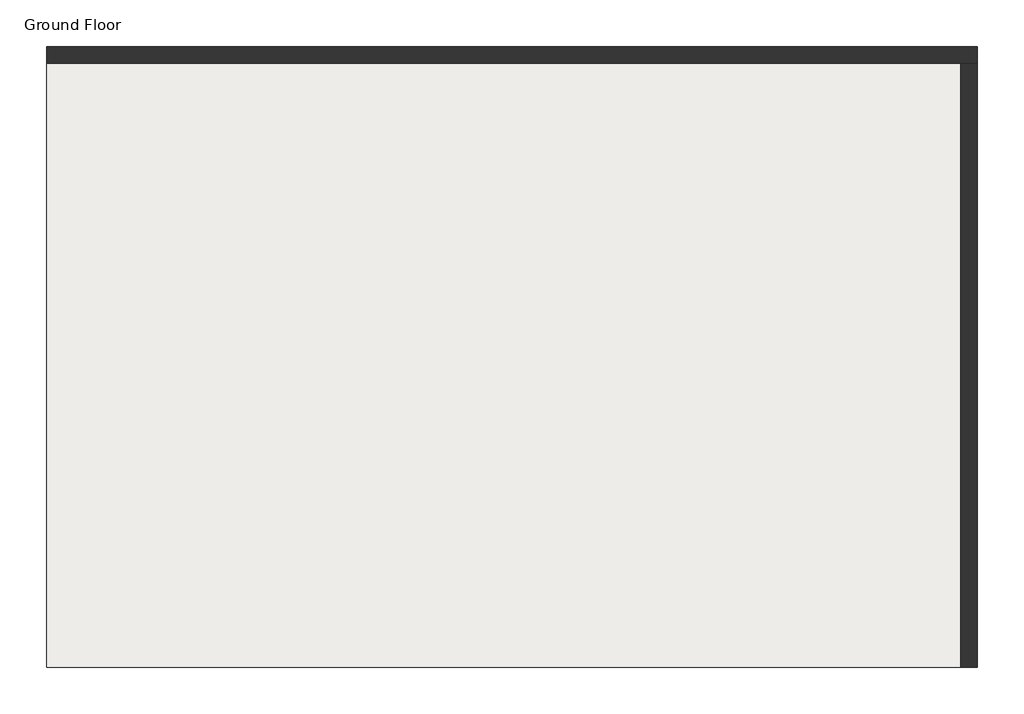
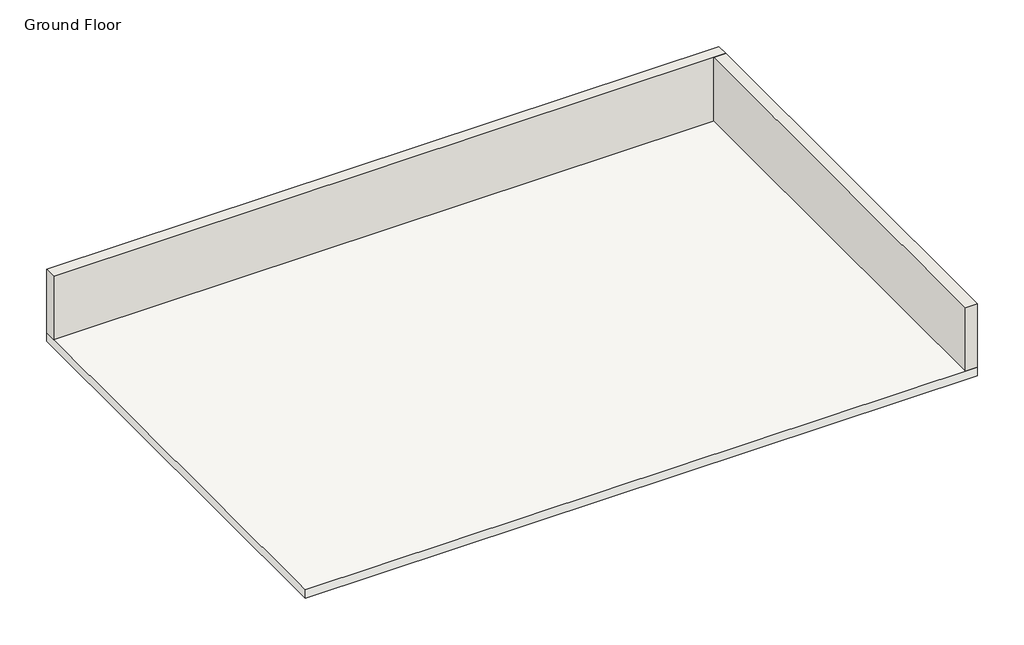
# One storey, incomplete: 2 walls, 1 slab.
"""IFC4 building model written with IfcOpenShell, lengths in millimetres."""

from ifc_helpers import new_model, si_unit, frame, origin, origin_with_axes, place, context, project, spatial, polyline, outline, extrude, faceted_brep, element, save

model = new_model("IFC4")

# Units and contexts
model_context = context("Model", 3, world=origin())
ifc_project = project(units=[si_unit("LENGTHUNIT", "METRE", prefix="MILLI")], contexts=[model_context])

# Site, building, storey
site = spatial("IfcSite", under=ifc_project)
building = spatial("IfcBuilding", under=site)
storey = spatial("IfcBuildingStorey", under=building, Name="Ground Floor", Elevation=0.0)

# Slab
placement = place(None, origin())
element("IfcSlab", 1, ObjectType="Generic 200mm", at=placement, inside=storey, context=model_context, shape_type="SweptSolid", body=[
    extrude(outline(polyline([(2546.6649504, 6868.4179111), (2546.6649504, -3131.5820889), (-12453.3350496, -3131.5820889), (-12453.3350496, 6868.4179111), (2546.6649504, 6868.4179111)])), frame((0.0, 0.0, -200.0), z_axis=(0.0, 0.0, 1.0), x_axis=(1.0, 0.0, 0.0)), (0.0, 0.0, 1.0), 200.0),
])

# Walls
element("IfcWall", 2, ObjectType="Double brick - 270", at=placement, inside=storey, context=model_context, shape_type="Brep", body=[
    faceted_brep([(-12453.3350496, 6598.4179111, 0.0), (2276.6649504, 6598.4179111, 0.0), (2546.6649504, 6598.4179111, 0.0), (2546.6649504, 6598.4179111, 1500.0), (2276.6649504, 6598.4179111, 1500.0), (-12453.3350496, 6598.4179111, 1500.0), (-12453.3350496, 6868.4179111, 0.0), (-12453.3350496, 6868.4179111, 1500.0), (2546.6649504, 6868.4179111, 1500.0), (2546.6649504, 6868.4179111, 0.0)], [[[0, 1, 2, 3, 4, 5]], [[6, 7, 8, 9]], [[2, 1, 0, 6, 9]], [[5, 4, 3, 8, 7]], [[0, 5, 7, 6]], [[3, 2, 9, 8]]]),
])
element("IfcWall", 3, ObjectType="Double brick - 270", at=placement, inside=storey, context=model_context, shape_type="SweptSolid", body=[
    extrude(outline(polyline([(2276.6649504, -3131.5820889), (2276.6649504, 6598.4179111), (2546.6649504, 6598.4179111), (2546.6649504, -3131.5820889), (2276.6649504, -3131.5820889)])), origin_with_axes(), (0.0, 0.0, 1.0), 1500.0),
])

save(model, "model.ifc")
